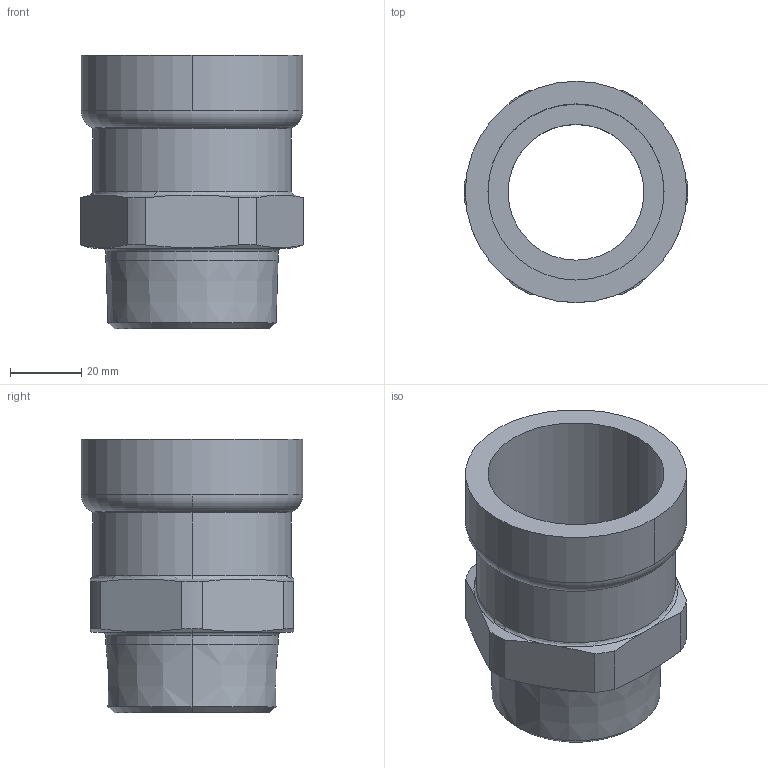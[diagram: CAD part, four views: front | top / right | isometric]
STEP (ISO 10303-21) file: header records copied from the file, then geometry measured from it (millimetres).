
FILE_DESCRIPTION(('Creo Elements/Direct Modeling STEP Export'),'2;1');
FILE_NAME('C9405_1-1-2.stp','2020-06-18T14:37:19',(''),(''),'PTC Creo Elements/Direct Modeling STEP processor for AP214 (Solid Model)','PTC Creo Elements/Direct Modeling 19.0C 15-Aug-2015 (C) Parametric Technology GmbH','');
FILE_SCHEMA(('AUTOMOTIVE_DESIGN { 1 0 10303 214 1 1 1 1 }'));
Length unit declared in the file: millimetre
Products named in the file (2): 9405_1-1-2
Assembly tree (1 placements, depth 2):
  9405_1-1-2
    9405_1-1-2
Bounding box: 62.7 x 62 x 76.65 mm (x, y, z)
Volume: 62341 mm3; surface area: 28001 mm2
Topology: 1 solids, 1 shells, 46 faces, 118 edges, 76 vertices
Faces by surface type: cylinder 16, cone 12, plane 10, torus 8
Entity records: 2157 total; most frequent: CARTESIAN_POINT 1086, ORIENTED_EDGE 236, DIRECTION 180, EDGE_CURVE 118, AXIS2_PLACEMENT_3D 76, VERTEX_POINT 76, EDGE_LOOP 50, FACE_OUTER_BOUND 46
